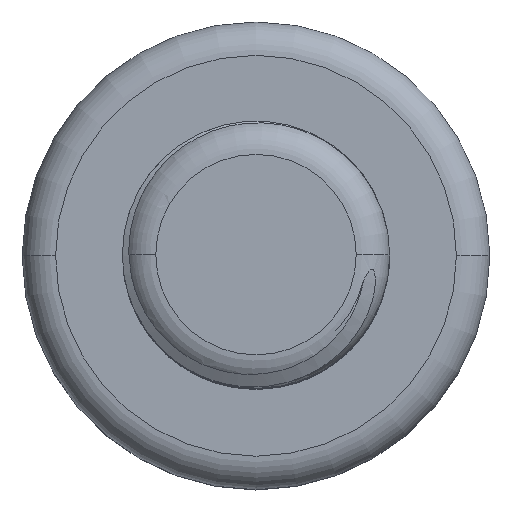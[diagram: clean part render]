
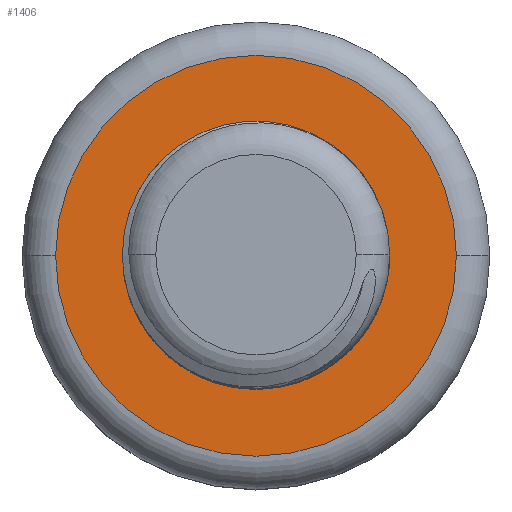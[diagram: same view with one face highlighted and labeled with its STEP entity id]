
A CAD part, top view. The second image highlights one B-rep face of the part: STEP entity #1406.
In plain terms, the highlighted planar face has unit normal (0, 0, 1).
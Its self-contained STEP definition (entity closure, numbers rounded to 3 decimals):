
#45 = CIRCLE ( 'NONE', #1307, 2. ) ;
#114 = DIRECTION ( 'NONE',  ( 1., 0., 0. ) ) ;
#121 = FACE_BOUND ( 'NONE', #126, .T. ) ;
#126 = EDGE_LOOP ( 'NONE', ( #907, #2293 ) ) ;
#184 = DIRECTION ( 'NONE',  ( 1., 0., 0. ) ) ;
#261 = AXIS2_PLACEMENT_3D ( 'NONE', #851, #572, #292 ) ;
#288 = VERTEX_POINT ( 'NONE', #2611 ) ;
#292 = DIRECTION ( 'NONE',  ( 1., 0., 0. ) ) ;
#330 = EDGE_CURVE ( 'NONE', #288, #2672, #45, .T. ) ;
#393 = DIRECTION ( 'NONE',  ( 0., 0., 1. ) ) ;
#457 = DIRECTION ( 'NONE',  ( 0., 0., 1. ) ) ;
#499 = ORIENTED_EDGE ( 'NONE', *, *, #2044, .T. ) ;
#567 = EDGE_CURVE ( 'NONE', #2672, #288, #1218, .T. ) ;
#572 = DIRECTION ( 'NONE',  ( 0., 0., 1. ) ) ;
#669 = CARTESIAN_POINT ( 'NONE',  ( 0., 0., 4. ) ) ;
#711 = CARTESIAN_POINT ( 'NONE',  ( -3., 0., 4. ) ) ;
#735 = CARTESIAN_POINT ( 'NONE',  ( 0., 0., 4. ) ) ;
#851 = CARTESIAN_POINT ( 'NONE',  ( 0., 0., 4. ) ) ;
#907 = ORIENTED_EDGE ( 'NONE', *, *, #330, .F. ) ;
#1132 = PLANE ( 'NONE',  #261 ) ;
#1181 = AXIS2_PLACEMENT_3D ( 'NONE', #735, #457, #184 ) ;
#1218 = CIRCLE ( 'NONE', #2076, 2. ) ;
#1307 = AXIS2_PLACEMENT_3D ( 'NONE', #2567, #2295, #2001 ) ;
#1406 = ADVANCED_FACE ( 'NONE', ( #2733, #121 ), #1132, .T. ) ;
#1598 = EDGE_CURVE ( 'NONE', #2528, #2114, #1773, .T. ) ;
#1773 = CIRCLE ( 'NONE', #1181, 3. ) ;
#1929 = DIRECTION ( 'NONE',  ( 1., 0., 0. ) ) ;
#1979 = CIRCLE ( 'NONE', #2390, 3. ) ;
#2001 = DIRECTION ( 'NONE',  ( 1., 0., 0. ) ) ;
#2044 = EDGE_CURVE ( 'NONE', #2114, #2528, #1979, .T. ) ;
#2076 = AXIS2_PLACEMENT_3D ( 'NONE', #2492, #2209, #1929 ) ;
#2114 = VERTEX_POINT ( 'NONE', #2210 ) ;
#2209 = DIRECTION ( 'NONE',  ( 0., 0., 1. ) ) ;
#2210 = CARTESIAN_POINT ( 'NONE',  ( 3., 0., 4. ) ) ;
#2293 = ORIENTED_EDGE ( 'NONE', *, *, #567, .F. ) ;
#2295 = DIRECTION ( 'NONE',  ( 0., 0., 1. ) ) ;
#2304 = ORIENTED_EDGE ( 'NONE', *, *, #1598, .T. ) ;
#2390 = AXIS2_PLACEMENT_3D ( 'NONE', #669, #393, #114 ) ;
#2492 = CARTESIAN_POINT ( 'NONE',  ( 0., 0., 4. ) ) ;
#2528 = VERTEX_POINT ( 'NONE', #711 ) ;
#2567 = CARTESIAN_POINT ( 'NONE',  ( 0., 0., 4. ) ) ;
#2579 = CARTESIAN_POINT ( 'NONE',  ( 2., 0., 4. ) ) ;
#2611 = CARTESIAN_POINT ( 'NONE',  ( -2., 0., 4. ) ) ;
#2672 = VERTEX_POINT ( 'NONE', #2579 ) ;
#2711 = EDGE_LOOP ( 'NONE', ( #499, #2304 ) ) ;
#2733 = FACE_OUTER_BOUND ( 'NONE', #2711, .T. ) ;
